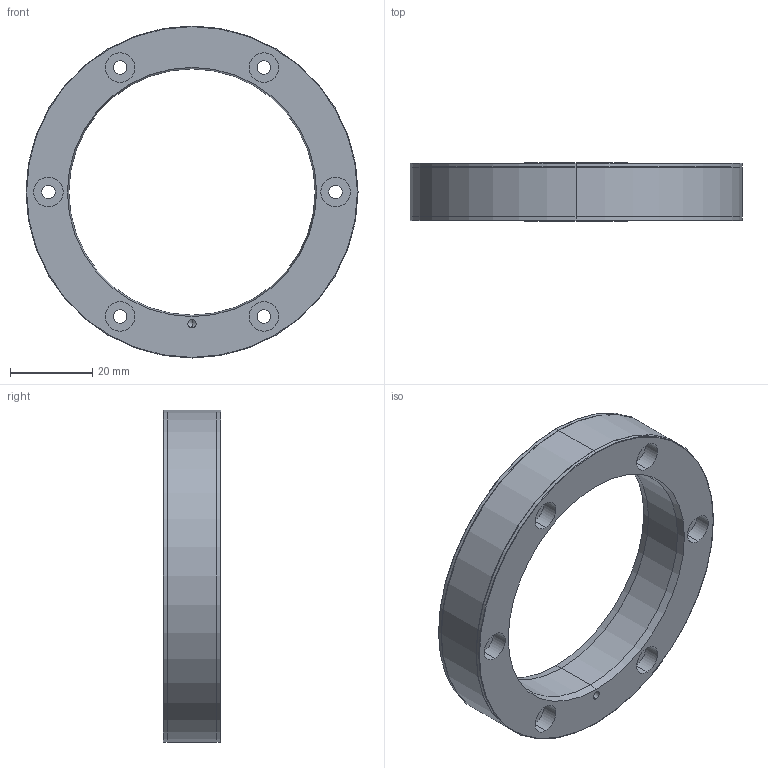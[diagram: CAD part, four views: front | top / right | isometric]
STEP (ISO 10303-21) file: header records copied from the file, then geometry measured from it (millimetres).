
FILE_DESCRIPTION (( 'STEP AP214' ), '1' );
FILE_NAME ('SAR081_exposed.STEP', '2024-02-02T09:23:52', ( '' ), ( '' ), 'SwSTEP 2.0', 'SolidWorks 2022', '' );
FILE_SCHEMA (( 'AUTOMOTIVE_DESIGN' ));
Length unit declared in the file: millimetre
Products named in the file (1): SAR081_exposed
Bounding box: 80.9 x 14 x 80.9 mm (x, y, z)
Volume: 29947.6 mm3; surface area: 12211.2 mm2
Topology: 1 solids, 1 shells, 847 faces, 2276 edges, 1506 vertices
Faces by surface type: plane 662, bspline 86, cylinder 71, cone 20, torus 8
Entity records: 30250 total; most frequent: CARTESIAN_POINT 9340, ORIENTED_EDGE 4544, DIRECTION 3798, EDGE_CURVE 2272, VECTOR 1926, LINE 1926, VERTEX_POINT 1506, EDGE_LOOP 940
